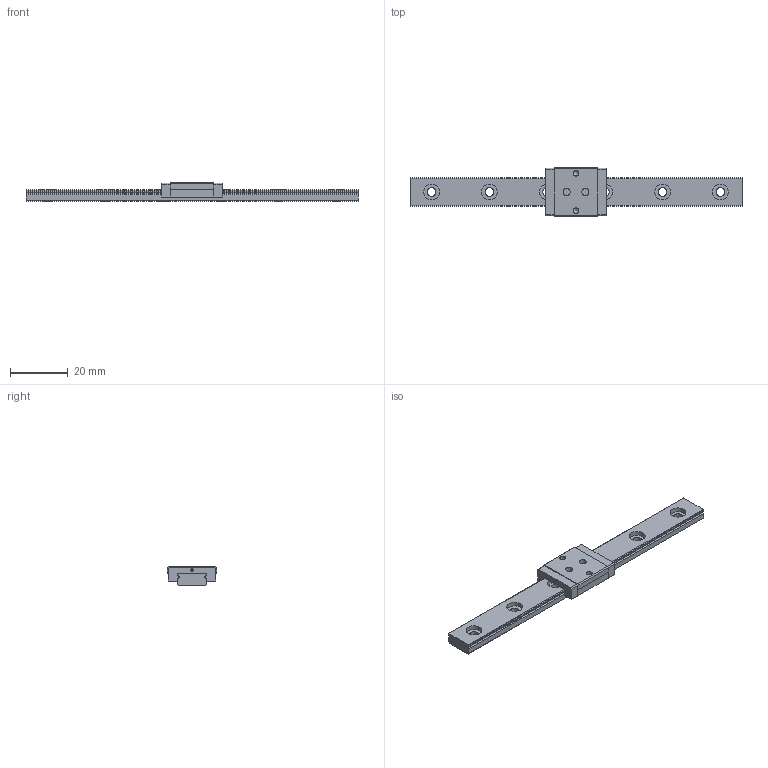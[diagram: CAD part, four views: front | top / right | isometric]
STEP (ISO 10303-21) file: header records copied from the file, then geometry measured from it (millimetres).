
FILE_DESCRIPTION((''),'2;1');
FILE_NAME('C:\Documents and Settings\土屋\My Documents\土屋移動用フォルダ\製品 (図面)\カタログ用3D\リニアガイド\EGM-W\EGM5W.stp','2015-02-21T13:15:00',('y'),(''),'Autodesk Inventor 11','Autodesk Inventor 11','');
FILE_SCHEMA(('AUTOMOTIVE_DESIGN { 1 0 10303 214 1 1 1 1 }'));
Length unit declared in the file: millimetre
Products named in the file (3): EGM5W; EGM5Wレール; EGM5Wベアリング
Assembly tree (2 placements, depth 2):
  EGM5W
    EGM5Wレール
    EGM5Wベアリング
Bounding box: 115 x 17 x 6.5 mm (x, y, z)
Volume: 5341.5 mm3; surface area: 4814.4 mm2
Topology: 2 solids, 2 shells, 84 faces, 216 edges, 144 vertices
Faces by surface type: plane 41, bspline 26, cylinder 17
Full cylindrical faces by diameter (mm): 0.9 x1
Entity records: 2787 total; most frequent: CARTESIAN_POINT 765, DIRECTION 386, ORIENTED_EDGE 384, EDGE_CURVE 192, VERTEX_POINT 140, AXIS2_PLACEMENT_3D 131, EDGE_LOOP 128, VECTOR 124
